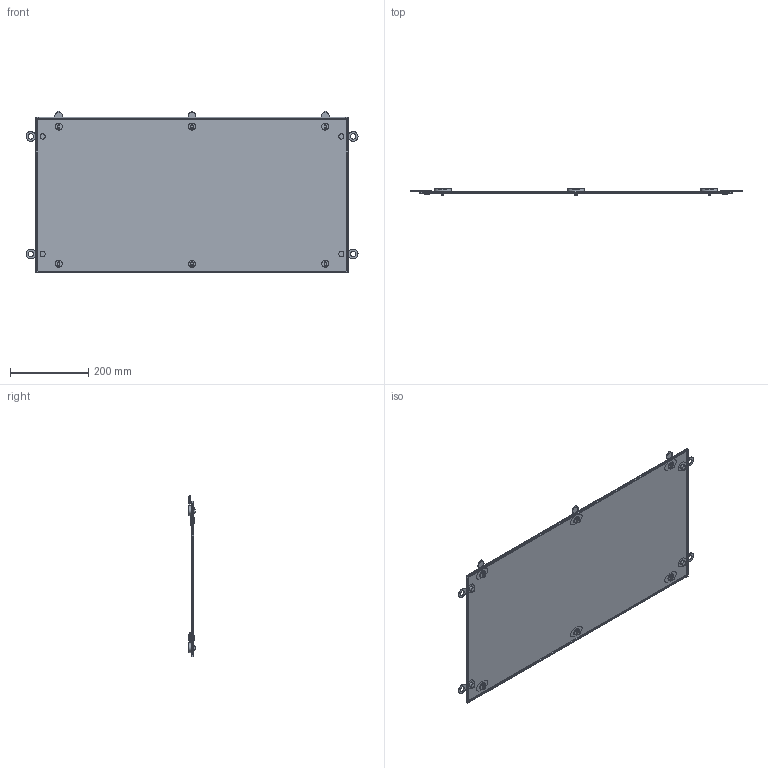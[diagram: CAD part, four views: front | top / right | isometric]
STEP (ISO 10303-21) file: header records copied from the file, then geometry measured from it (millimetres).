
FILE_DESCRIPTION((''),'2;1');
FILE_NAME('SB106479_3D-SOFTWARE_COLOUR','2013-08-12T',('SESA214371'),('Schneider-Electric'),'PRO/ENGINEER BY PARAMETRIC TECHNOLOGY CORPORATION, 2011410','PRO/ENGINEER BY PARAMETRIC TECHNOLOGY CORPORATION, 2011410','');
FILE_SCHEMA(('CONFIG_CONTROL_DESIGN'));
Length unit declared in the file: millimetre
Products named in the file (1): SB106479_3D-SOFTWARE_COLOUR
Bounding box: 847.5 x 17.2 x 413.52 mm (x, y, z)
Volume: 377497.5 mm3; surface area: 692341.5 mm2
Topology: 1 solids, 1 shells, 554 faces, 1504 edges, 982 vertices
Faces by surface type: plane 314, cylinder 196, cone 20, extrusion 12, sphere 12
Entity records: 18263 total; most frequent: CARTESIAN_POINT 3955, DIRECTION 3052, ORIENTED_EDGE 2984, EDGE_CURVE 1492, AXIS2_PLACEMENT_3D 1180, VERTEX_POINT 982, VECTOR 692, LINE 680
